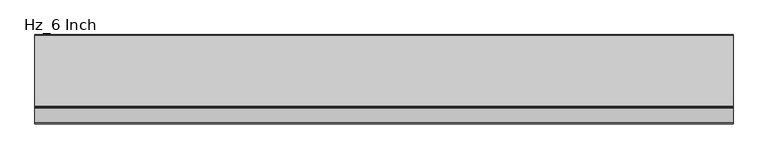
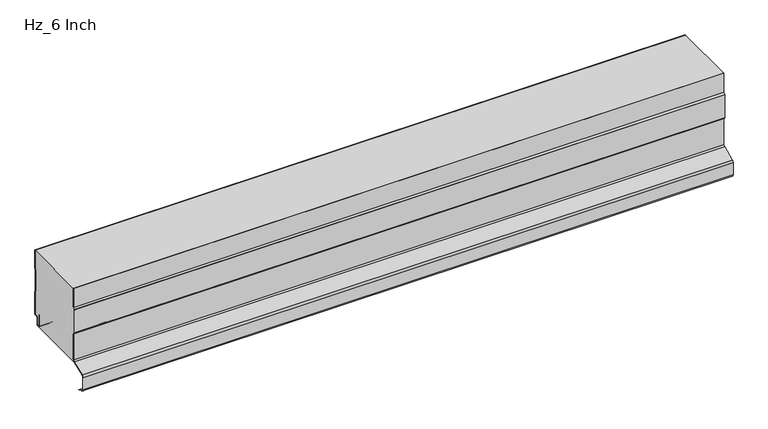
"""IFC4 building model written with IfcOpenShell, lengths in millimetres: plate geometry, AWIP_R18_CP_HR5_Hz_Roof Panel : Hz_6 Inch."""

from ifc_helpers import new_model, si_unit, point, frame, frame_2d, origin, place, context, project, spatial, polyline, circle_curve, trimmed, segment, composite_curve, outline, extrude, source, transform, mapped, element, save


def hz_6_inch_65774ae7(model_context):
    return source(origin(), model_context, "Body", "SweptSolid", [
        extrude(outline(composite_curve([segment(polyline([(-0.8, 161.5426774), (-0.8, 203.2), (0.0, 203.2), (0.0, 161.5426774)]), True, "CONTINUOUS"), segment(trimmed(circle_curve(frame_2d((-3.2, 161.5426774)), 3.2), [point((0.0, 161.5426774))], [point((-0.2624164, 160.2735823))], False, "CARTESIAN"), True, "CONTINUOUS"), segment(polyline([(-0.2624164, 160.2735823), (-1.2949872, 157.8834831)]), True, "CONTINUOUS"), segment(trimmed(circle_curve(frame_2d((1.0, 156.8920026)), 2.5), [point((-1.2949872, 157.8834831))], [point((-1.5, 156.8920026))], True, "CARTESIAN"), True, "CONTINUOUS"), segment(polyline([(-1.5, 156.8920026), (-1.5, 108.5079974)]), True, "CONTINUOUS"), segment(trimmed(circle_curve(frame_2d((1.0, 108.5079974)), 2.5), [point((-1.5, 108.5079974))], [point((-1.2949872, 107.5165169))], True, "CARTESIAN"), True, "CONTINUOUS"), segment(polyline([(-1.2949872, 107.5165169), (-0.2624164, 105.1264177)]), True, "CONTINUOUS"), segment(trimmed(circle_curve(frame_2d((-3.2, 103.8573226)), 3.2), [point((-0.2624164, 105.1264177))], [point((0.0, 103.8573226))], False, "CARTESIAN"), True, "CONTINUOUS"), segment(polyline([(0.0, 103.8573226), (0.0, 54.1)]), True, "CONTINUOUS"), segment(trimmed(circle_curve(frame_2d((-3.0, 54.1)), 3.0), [point((0.0, 54.1))], [point((-3.0, 51.1))], False, "CARTESIAN"), True, "CONTINUOUS"), segment(polyline([(-3.0, 51.1), (-5.0, 51.1)]), True, "CONTINUOUS"), segment(trimmed(circle_curve(frame_2d((-5.0, 47.1)), 4.0), [point((-5.0, 51.1))], [point((-9.0, 47.1))], True, "CARTESIAN"), True, "CONTINUOUS"), segment(polyline([(-9.0, 47.1), (-9.0, 33.5841899)]), True, "CONTINUOUS"), segment(trimmed(circle_curve(frame_2d((-12.0, 33.5841899)), 3.0), [point((-9.0, 33.5841899))], [point((-12.0, 30.5841899))], False, "CARTESIAN"), True, "CONTINUOUS"), segment(polyline([(-12.0, 30.5841899), (-14.0, 30.5841899)]), True, "CONTINUOUS"), segment(trimmed(circle_curve(frame_2d((-14.0, 33.5841899)), 3.0), [point((-14.0, 30.5841899))], [point((-17.0, 33.5841899))], False, "CARTESIAN"), True, "CONTINUOUS"), segment(polyline([(-17.0, 33.5841899), (-17.0, 59.5252318), (-16.2, 59.5252318), (-16.2, 33.5841899)]), True, "CONTINUOUS"), segment(trimmed(circle_curve(frame_2d((-14.0, 33.5841899)), 2.2), [point((-16.2, 33.5841899))], [point((-14.0, 31.3841899))], True, "CARTESIAN"), True, "CONTINUOUS"), segment(polyline([(-14.0, 31.3841899), (-12.0, 31.3841899)]), True, "CONTINUOUS"), segment(trimmed(circle_curve(frame_2d((-12.0, 33.5841899)), 2.2), [point((-12.0, 31.3841899))], [point((-9.8, 33.5841899))], True, "CARTESIAN"), True, "CONTINUOUS"), segment(polyline([(-9.8, 33.5841899), (-9.8, 47.1)]), True, "CONTINUOUS"), segment(trimmed(circle_curve(frame_2d((-5.0, 47.1)), 4.8), [point((-9.8, 47.1))], [point((-5.0, 51.9))], False, "CARTESIAN"), True, "CONTINUOUS"), segment(polyline([(-5.0, 51.9), (-3.0, 51.9)]), True, "CONTINUOUS"), segment(trimmed(circle_curve(frame_2d((-3.0, 54.1)), 2.2), [point((-3.0, 51.9))], [point((-0.8, 54.1))], True, "CARTESIAN"), True, "CONTINUOUS"), segment(polyline([(-0.8, 54.1), (-0.8, 103.8573226)]), True, "CONTINUOUS"), segment(trimmed(circle_curve(frame_2d((-3.2, 103.8573226)), 2.4), [point((-0.8, 103.8573226))], [point((-0.9968123, 104.8091439))], True, "CARTESIAN"), True, "CONTINUOUS"), segment(polyline([(-0.9968123, 104.8091439), (-2.0293831, 107.1992431)]), True, "CONTINUOUS"), segment(trimmed(circle_curve(frame_2d((1.0, 108.5079974)), 3.3), [point((-2.0293831, 107.1992431))], [point((-2.3, 108.5079974))], False, "CARTESIAN"), True, "CONTINUOUS"), segment(polyline([(-2.3, 108.5079974), (-2.3, 156.8920026)]), True, "CONTINUOUS"), segment(trimmed(circle_curve(frame_2d((1.0, 156.8920026)), 3.3), [point((-2.3, 156.8920026))], [point((-2.0293831, 158.2007569))], False, "CARTESIAN"), True, "CONTINUOUS"), segment(polyline([(-2.0293831, 158.2007569), (-0.9968123, 160.5908561)]), True, "CONTINUOUS"), segment(trimmed(circle_curve(frame_2d((-3.2, 161.5426774)), 2.4), [point((-0.9968123, 160.5908561))], [point((-0.8, 161.5426774))], True, "CARTESIAN"), True, "CONTINUOUS")], self_intersect=False)), frame((-723.9042608, 0.0, 0.0), z_axis=(1.0, 0.0, 0.0), x_axis=(0.0, 1.0, 0.0)), (0.0, 0.0, 1.0), 1447.8085217),
        extrude(outline(composite_curve([segment(polyline([(-149.6158805, 158.5882334), (-149.6158805, 203.2), (-148.8158805, 203.2), (-148.8158805, 158.7499765)]), True, "CONTINUOUS"), segment(trimmed(circle_curve(frame_2d((-150.1158805, 158.7499765)), 1.3), [point((-148.8158805, 158.7499765))], [point((-149.0621796, 157.9885867))], False, "CARTESIAN"), True, "CONTINUOUS"), segment(polyline([(-149.0621796, 157.9885867), (-151.5999999, 154.4764522), (-151.5999999, 100.2735719), (-149.0621795, 96.7614373)]), True, "CONTINUOUS"), segment(trimmed(circle_curve(frame_2d((-150.1158804, 96.0000475)), 1.3), [point((-149.0621795, 96.7614373))], [point((-148.8158804, 96.0000475))], False, "CARTESIAN"), True, "CONTINUOUS"), segment(polyline([(-148.8158804, 96.0000475), (-148.8158804, 35.2161306)]), True, "CONTINUOUS"), segment(trimmed(circle_curve(frame_2d((-153.6158804, 35.2161306)), 4.8), [point((-148.8158804, 35.2161306))], [point((-151.7404013, 30.7976944))], False, "CARTESIAN"), True, "CONTINUOUS"), segment(polyline([(-151.7404013, 30.7976944), (-181.7569246, 18.0566792)]), True, "CONTINUOUS"), segment(trimmed(circle_curve(frame_2d((-180.1158804, 14.1905475)), 4.2), [point((-181.7569246, 18.0566792))], [point((-184.3158804, 14.1905475))], True, "CARTESIAN"), True, "CONTINUOUS"), segment(polyline([(-184.3158804, 14.1905475), (-184.3158804, -14.1905446)]), True, "CONTINUOUS"), segment(trimmed(circle_curve(frame_2d((-180.1158804, -14.1905446)), 4.2), [point((-184.3158804, -14.1905446))], [point((-181.7569214, -18.0566776))], True, "CARTESIAN"), True, "CONTINUOUS"), segment(polyline([(-181.7569214, -18.0566776), (-169.1561658, -23.4052667), (-169.4672483, -24.1423084), (-182.0695007, -18.7930838)]), True, "CONTINUOUS"), segment(trimmed(circle_curve(frame_2d((-180.1158804, -14.1905446)), 5.0), [point((-182.0695007, -18.7930838))], [point((-185.1158804, -14.1905446))], False, "CARTESIAN"), True, "CONTINUOUS"), segment(polyline([(-185.1158804, -14.1905446), (-185.1158804, 14.1905475)]), True, "CONTINUOUS"), segment(trimmed(circle_curve(frame_2d((-180.1158804, 14.1905475)), 5.0), [point((-185.1158804, 14.1905475))], [point((-182.0695045, 18.7930852))], False, "CARTESIAN"), True, "CONTINUOUS"), segment(polyline([(-182.0695045, 18.7930852), (-152.0529811, 31.5341005)]), True, "CONTINUOUS"), segment(trimmed(circle_curve(frame_2d((-153.6158804, 35.2161306)), 4.0), [point((-152.0529811, 31.5341005))], [point((-149.6158804, 35.2161306))], True, "CARTESIAN"), True, "CONTINUOUS"), segment(polyline([(-149.6158804, 35.2161306), (-149.6158804, 96.1617908), (-152.1158083, 99.6214851)]), True, "CONTINUOUS"), segment(trimmed(circle_curve(frame_2d((-150.8999996, 100.5000119)), 1.5), [point((-152.1158083, 99.6214851))], [point((-152.3999996, 100.5000119))], False, "CARTESIAN"), True, "CONTINUOUS"), segment(polyline([(-152.3999996, 100.5000119), (-152.3999996, 154.2490404)]), True, "CONTINUOUS"), segment(trimmed(circle_curve(frame_2d((-150.8999999, 154.2500118)), 1.5), [point((-152.3999996, 154.2490404))], [point((-152.1158086, 155.1285386))], False, "CARTESIAN"), True, "CONTINUOUS"), segment(polyline([(-152.1158086, 155.1285386), (-149.6158805, 158.5882334)]), True, "CONTINUOUS")], self_intersect=False)), frame((-723.9042608, 0.0, 0.0), z_axis=(1.0, 0.0, 0.0), x_axis=(0.0, 1.0, 0.0)), (0.0, 0.0, 1.0), 1447.8085217),
        extrude(outline(composite_curve([segment(polyline([(-148.8158805, 158.7499765), (-148.8158805, 203.2), (-0.8, 203.2), (-0.8, 161.5257309)]), True, "CONTINUOUS"), segment(trimmed(circle_curve(frame_2d((-3.2, 161.5257309)), 2.4), [point((-0.8, 161.5257309))], [point((-0.9968123, 160.5739095))], False, "CARTESIAN"), True, "CONTINUOUS"), segment(polyline([(-0.9968123, 160.5739095), (-2.0293831, 158.1838103)]), True, "CONTINUOUS"), segment(trimmed(circle_curve(frame_2d((1.0, 156.875056)), 3.3), [point((-2.0293831, 158.1838103))], [point((-2.3, 156.875056))], True, "CARTESIAN"), True, "CONTINUOUS"), segment(polyline([(-2.3, 156.875056), (-2.3, 108.4910509)]), True, "CONTINUOUS"), segment(trimmed(circle_curve(frame_2d((1.0, 108.4910509)), 3.3), [point((-2.3, 108.4910509))], [point((-2.0293831, 107.1822965))], True, "CARTESIAN"), True, "CONTINUOUS"), segment(polyline([(-2.0293831, 107.1822965), (-0.9968123, 104.7921973)]), True, "CONTINUOUS"), segment(trimmed(circle_curve(frame_2d((-3.2, 103.840376)), 2.4), [point((-0.9968123, 104.7921973))], [point((-0.8, 103.840376))], False, "CARTESIAN"), True, "CONTINUOUS"), segment(polyline([(-0.8, 103.840376), (-0.8, 54.0830534)]), True, "CONTINUOUS"), segment(trimmed(circle_curve(frame_2d((-3.0, 54.0830534)), 2.2), [point((-0.8, 54.0830534))], [point((-3.0, 51.8830534))], False, "CARTESIAN"), True, "CONTINUOUS"), segment(polyline([(-3.0, 51.8830534), (-5.0, 51.8830534)]), True, "CONTINUOUS"), segment(trimmed(circle_curve(frame_2d((-5.0, 47.0830534)), 4.8), [point((-5.0, 51.8830534))], [point((-9.8, 47.0830534))], True, "CARTESIAN"), True, "CONTINUOUS"), segment(polyline([(-9.8, 47.0830534), (-9.8, 33.5672433)]), True, "CONTINUOUS"), segment(trimmed(circle_curve(frame_2d((-12.0, 33.5672433)), 2.2), [point((-9.8, 33.5672433))], [point((-12.0, 31.3672433))], False, "CARTESIAN"), True, "CONTINUOUS"), segment(polyline([(-12.0, 31.3672433), (-14.0, 31.3672433)]), True, "CONTINUOUS"), segment(trimmed(circle_curve(frame_2d((-14.0, 33.5672433)), 2.2), [point((-14.0, 31.3672433))], [point((-16.2, 33.5672433))], False, "CARTESIAN"), True, "CONTINUOUS"), segment(polyline([(-16.2, 33.5672433), (-16.2, 59.5082852), (-17.0, 59.5082852), (-17.0, 33.5672433)]), True, "CONTINUOUS"), segment(trimmed(circle_curve(frame_2d((-14.0, 33.5672433)), 3.0), [point((-17.0, 33.5672433))], [point((-14.0, 30.5672433))], True, "CARTESIAN"), True, "CONTINUOUS"), segment(polyline([(-14.0, 30.5672433), (-152.420955, 30.5672433)]), True, "CONTINUOUS"), segment(trimmed(circle_curve(frame_2d((-153.6158805, 35.2161306)), 4.8), [point((-152.420955, 30.5672433))], [point((-148.8158805, 35.2161306))], True, "CARTESIAN"), True, "CONTINUOUS"), segment(polyline([(-148.8158805, 35.2161306), (-148.8158805, 96.0000475)]), True, "CONTINUOUS"), segment(trimmed(circle_curve(frame_2d((-150.1158805, 96.0000475)), 1.3), [point((-148.8158805, 96.0000475))], [point((-149.0621796, 96.7614373))], True, "CARTESIAN"), True, "CONTINUOUS"), segment(polyline([(-149.0621796, 96.7614373), (-151.6, 100.2735719), (-151.6, 154.4764522), (-149.0621797, 157.9885867)]), True, "CONTINUOUS"), segment(trimmed(circle_curve(frame_2d((-150.1158805, 158.7499765)), 1.3), [point((-149.0621797, 157.9885867))], [point((-148.8158805, 158.7499765))], True, "CARTESIAN"), True, "CONTINUOUS")], self_intersect=False)), frame((-723.9042608, 0.0, 0.0), z_axis=(1.0, 0.0, 0.0), x_axis=(0.0, 1.0, 0.0)), (0.0, 0.0, 1.0), 1447.8085217),
    ])


if __name__ == "__main__":
    model = new_model("IFC4")
    model_context = context("Model", 3, world=origin())
    ifc_project = project(units=[si_unit("LENGTHUNIT", "METRE", prefix="MILLI")], contexts=[model_context])
    site = spatial("IfcSite", under=ifc_project)
    building = spatial("IfcBuilding", under=site)
    placement = place(None, origin())
    hz_6_inch_shape = hz_6_inch_65774ae7(model_context)
    element("IfcPlate", 1, ObjectType="AWIP_R18_CP_HR5_Hz_Roof Panel : Hz_6 Inch", at=placement, inside=building, context=model_context, shape_type="MappedRepresentation", body=[
        mapped(hz_6_inch_shape, transform((0.0, 0.0, 0.0), x_axis=(1.0, 0.0, 0.0), y_axis=(0.0, 1.0, 0.0), z_axis=(0.0, 0.0, 1.0))),
    ])
    save(model, "model.ifc")
